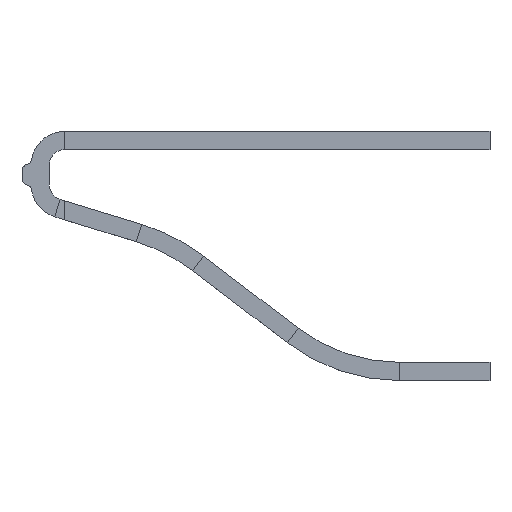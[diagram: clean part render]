
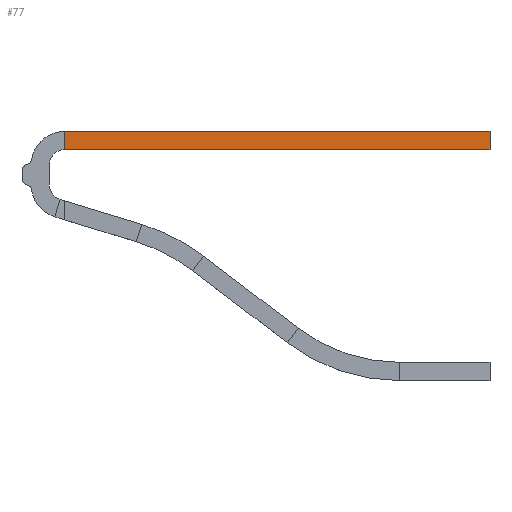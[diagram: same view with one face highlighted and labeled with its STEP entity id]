
A CAD part, top view. The second image highlights one B-rep face of the part: STEP entity #77.
In plain terms, the highlighted planar face has unit normal (0, 0, 1).
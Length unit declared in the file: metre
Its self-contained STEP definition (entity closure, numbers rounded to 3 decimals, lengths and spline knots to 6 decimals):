
#77 = ADVANCED_FACE( '', ( #127 ), #128, .F. );
#127 = FACE_OUTER_BOUND( '', #219, .T. );
#128 = PLANE( '', #220 );
#219 = EDGE_LOOP( '', ( #326, #327, #328, #329 ) );
#220 = AXIS2_PLACEMENT_3D( '', #330, #331, #332 );
#326 = ORIENTED_EDGE( '', *, *, #656, .T. );
#327 = ORIENTED_EDGE( '', *, *, #660, .F. );
#328 = ORIENTED_EDGE( '', *, *, #651, .F. );
#329 = ORIENTED_EDGE( '', *, *, #661, .T. );
#330 = CARTESIAN_POINT( '', ( -0.07, 0.0675, 0.002499 ) );
#331 = DIRECTION( '', ( 0., 0., -1. ) );
#332 = DIRECTION( '', ( 0., 1., 0. ) );
#651 = EDGE_CURVE( '', #755, #756, #757, .T. );
#656 = EDGE_CURVE( '', #766, #763, #767, .T. );
#660 = EDGE_CURVE( '', #756, #763, #772, .T. );
#661 = EDGE_CURVE( '', #755, #766, #773, .T. );
#755 = VERTEX_POINT( '', #923 );
#756 = VERTEX_POINT( '', #924 );
#757 = LINE( '', #925, #926 );
#763 = VERTEX_POINT( '', #935 );
#766 = VERTEX_POINT( '', #939 );
#767 = LINE( '', #940, #941 );
#772 = LINE( '', #949, #950 );
#773 = LINE( '', #951, #952 );
#923 = CARTESIAN_POINT( '', ( -0.07, 0.0675, 0.002499 ) );
#924 = CARTESIAN_POINT( '', ( -0.07, 0.0705, 0.002499 ) );
#925 = CARTESIAN_POINT( '', ( -0.07, 0.0675, 0.002499 ) );
#926 = VECTOR( '', #1171, 1. );
#935 = CARTESIAN_POINT( '', ( 0., 0.0705, 0.002499 ) );
#939 = CARTESIAN_POINT( '', ( 0., 0.0675, 0.002499 ) );
#940 = CARTESIAN_POINT( '', ( 0., 0.0675, 0.002499 ) );
#941 = VECTOR( '', #1176, 1. );
#949 = CARTESIAN_POINT( '', ( -0.07, 0.0705, 0.002499 ) );
#950 = VECTOR( '', #1180, 1. );
#951 = CARTESIAN_POINT( '', ( -0.07, 0.0675, 0.002499 ) );
#952 = VECTOR( '', #1181, 1. );
#1171 = DIRECTION( '', ( 0., 1., 0. ) );
#1176 = DIRECTION( '', ( 0., 1., 0. ) );
#1180 = DIRECTION( '', ( 1., 0., 0. ) );
#1181 = DIRECTION( '', ( 1., 0., 0. ) );
